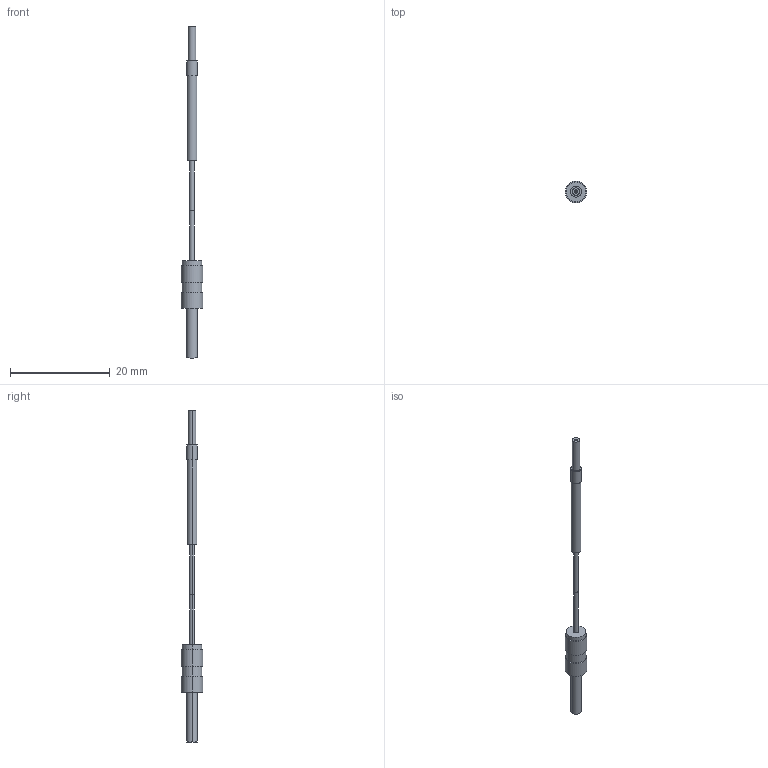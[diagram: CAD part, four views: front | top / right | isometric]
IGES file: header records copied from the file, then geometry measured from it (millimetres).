
Start section: SolidWorks IGES FILE using analytic representation for surfaces
Global section: file name: \\intra-srv04\開発データ\CAD_Data\CAD委員会\3D電子ｶﾀﾛｸﾞ\製品カタログ（新）\0_IGES\FT-P2.IGS,41HSolidWorks 2004; native system: by SolidWorks Corporation; preprocessor: Version 5.3; author: mf1158; date: 050908.111740; units: millimetre
Bounding box: 4.33 x 4.33 x 66.5 mm (x, y, z)
Volume: 264.5 mm3; surface area: 460.4 mm2
Topology: 2 solids, 2 shells, 44 faces, 84 edges, 56 vertices
Faces by surface type: revolution 28, plane 16
